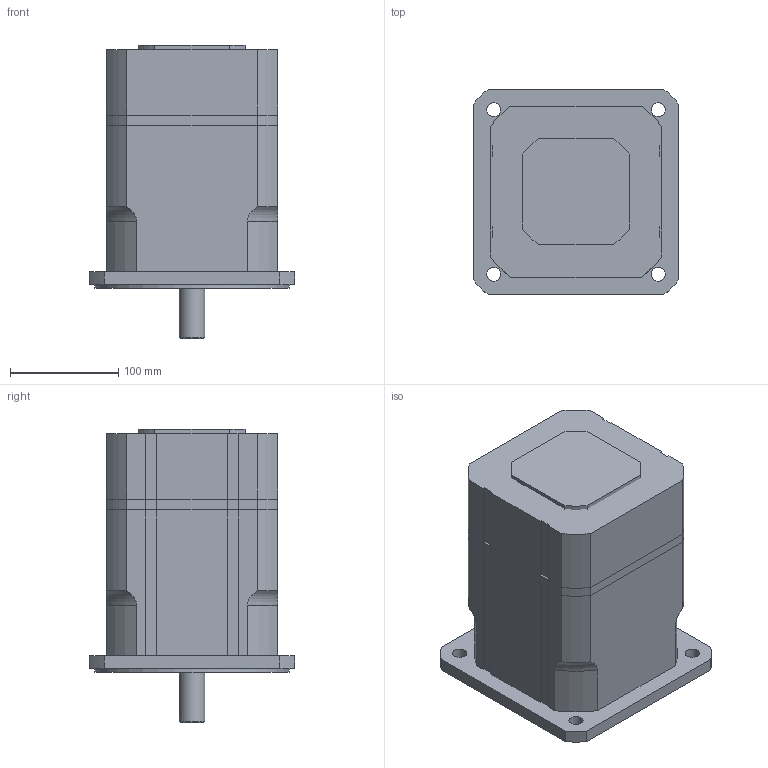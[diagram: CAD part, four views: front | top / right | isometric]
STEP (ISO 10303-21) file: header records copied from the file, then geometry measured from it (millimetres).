
FILE_DESCRIPTION(/* description */ ('Alibre Inc.'),/* implementation_level */ '2;1');
FILE_NAME(/* name */ 'export0',/* time_stamp */ '2011-12-08T09:06:15+01:00',/* author */ (''),/* organization */ (''),/* preprocessor_version */ 'ST-DEVELOPER v12',/* originating_system */ 'Alibre',/* authorisation */ '');
FILE_SCHEMA (('ALIBRE_SCHEMA','CONFIG_CONTROL_DESIGN'));
Length unit declared in the file: millimetre
Products named in the file (6): ID_1; ID_2
Bounding box: 190 x 190 x 271 mm (x, y, z)
Volume: 6057360.3 mm3; surface area: 312465.1 mm2
Topology: 5 solids, 5 shells, 168 faces, 428 edges, 281 vertices
Faces by surface type: plane 93, cylinder 63, cone 7, torus 4, bspline 1
Full cylindrical faces by diameter (mm): 2.7 x4, 6.647 x1, 13 x4, 20 x5, 22 x2, 24 x2, 25 x1, 180 x1
Entity records: 20783 total; most frequent: CARTESIAN_POINT 4555, DIRECTION 2458, ORIENTED_EDGE 2432, EDGE_CURVE 1216, AXIS2_PLACEMENT_3D 930, VECTOR 895, VERTEX_POINT 852, LINE 839
